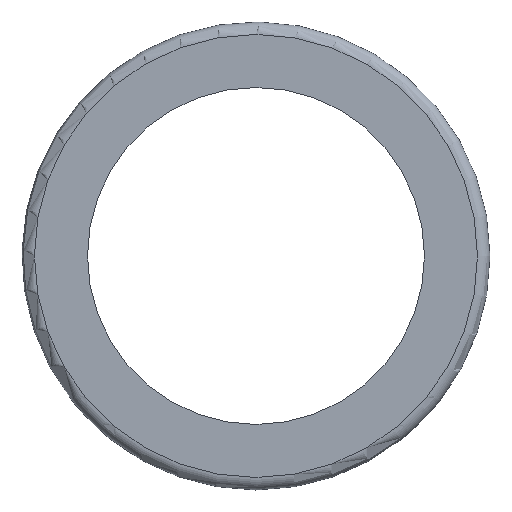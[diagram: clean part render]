
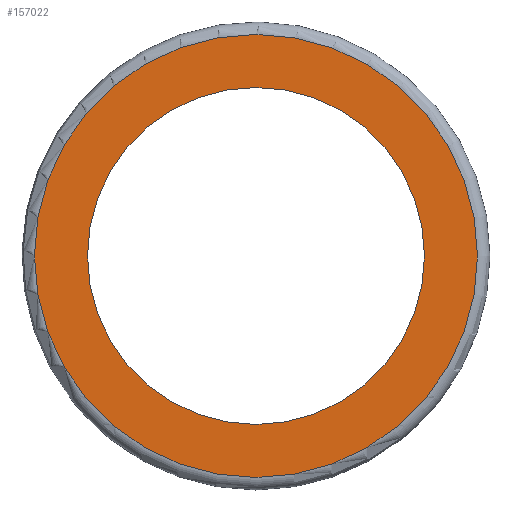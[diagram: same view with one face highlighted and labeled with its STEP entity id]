
A CAD part, top view. The second image highlights one B-rep face of the part: STEP entity #157022.
In plain terms, the highlighted planar face has unit normal (0, 0, 1).
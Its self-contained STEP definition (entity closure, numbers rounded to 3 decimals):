
#19792=PLANE('',#183977);
#21604=FACE_BOUND('',#44661,.T.);
#32190=FACE_OUTER_BOUND('',#44660,.T.);
#44660=EDGE_LOOP('',(#141804));
#44661=EDGE_LOOP('',(#141805));
#60715=CIRCLE('',#183927,35.5);
#60751=CIRCLE('',#183975,27.);
#74108=VERTEX_POINT('',#356992);
#74155=VERTEX_POINT('',#357748);
#96625=EDGE_CURVE('',#74108,#74108,#60715,.T.);
#96693=EDGE_CURVE('',#74155,#74155,#60751,.T.);
#141804=ORIENTED_EDGE('',*,*,#96625,.F.);
#141805=ORIENTED_EDGE('',*,*,#96693,.F.);
#157022=ADVANCED_FACE('',(#32190,#21604),#19792,.F.);
#183927=AXIS2_PLACEMENT_3D('',#356993,#240754,#240755);
#183975=AXIS2_PLACEMENT_3D('',#357749,#240850,#240851);
#183977=AXIS2_PLACEMENT_3D('',#357752,#240854,#240855);
#240754=DIRECTION('center_axis',(0.,0.,
-1.));
#240755=DIRECTION('ref_axis',(-1.,0.,0.));
#240850=DIRECTION('center_axis',(0.,0.,
1.));
#240851=DIRECTION('ref_axis',(-1.,0.,0.));
#240854=DIRECTION('center_axis',(0.,0.,
-1.));
#240855=DIRECTION('ref_axis',(-1.,0.,0.));
#356992=CARTESIAN_POINT('',(35.5,0.,38.5));
#356993=CARTESIAN_POINT('Origin',(0.,0.,
38.5));
#357748=CARTESIAN_POINT('',(27.,0.,38.5));
#357749=CARTESIAN_POINT('Origin',(0.,0.,
38.5));
#357752=CARTESIAN_POINT('Origin',(0.,0.,
38.5));
